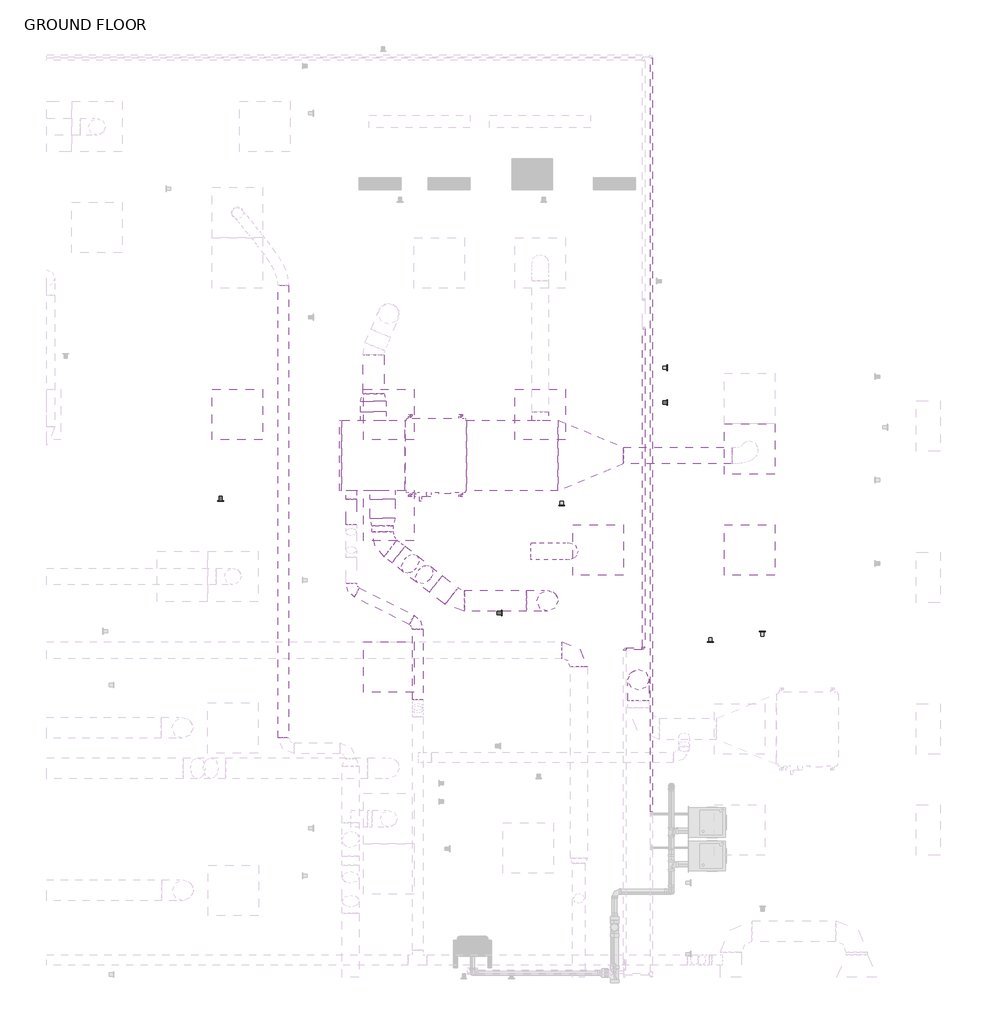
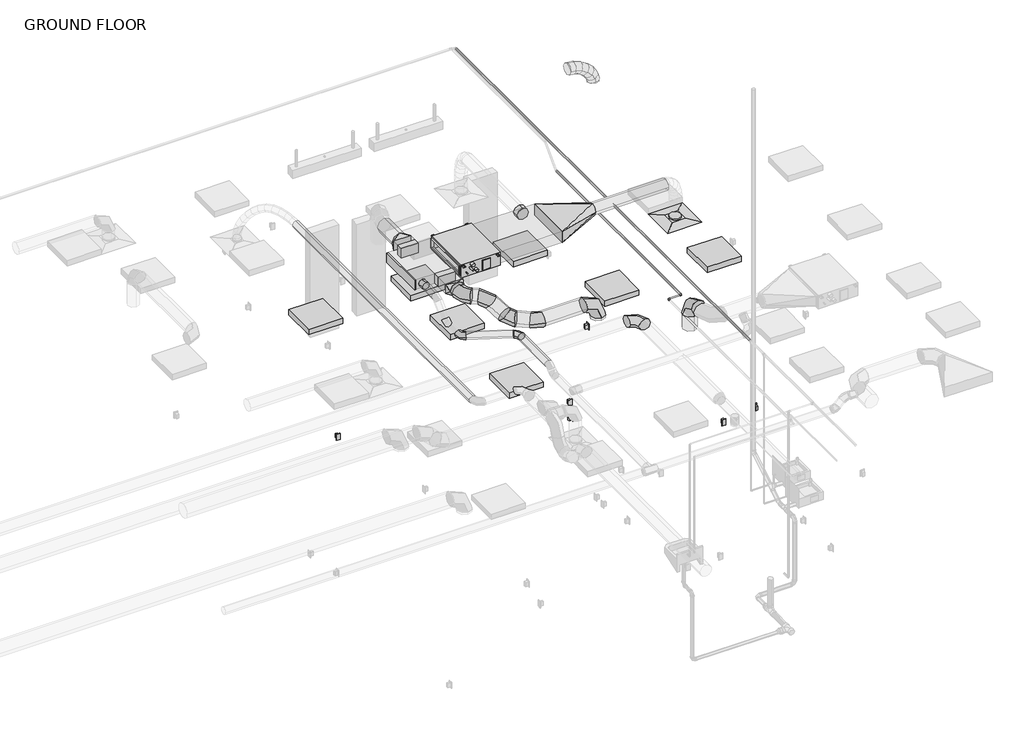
# One storey, part 18 of 20: 18 duct segments, 17 duct fittings, 7 light fixtures, 6 proxies, 3 pipe segments, 2 pipe fittings, 2 switching devices, 1 air terminal.
"""IFC4 building model written with IfcOpenShell, lengths in millimetres."""

from ifc_helpers import new_model, si_unit, point, frame, frame_2d, origin, place, context, project, spatial, polyline, circle_curve, ellipse_curve, trimmed, segment, composite_curve, outline, extrude, transform, mapped, element, save
from ifc_brep_helpers import plane_surface, cylinder_surface, advanced_brep
from components import air_terminal_e9020785, mechanical_equipment_7e022f85, duplex_receptacle_countertop_10251bba, rectangular_endcap_standard_66f4b2b8, rectangular_takeoff_standard_a8f316fd, rectangular_to_round_transition_angle_45_degree_0bd342e9, rectangular_to_round_transition_angle_45_degree_09297cf0, round_elbow_1_d_f2406e55, round_elbow_1_d_feab72b3, round_elbow_1_d_a253342a, round_elbow_1_d_6fec3262, round_elbow_1_d_ea3dccb8, round_elbow_1_d_21bb6db6, round_takeoff_standard_1127d77f, round_takeoff_standard_7fe2b2d5, troffer_corner_insert_2x2_3lamp_e67c7f8f, elbow_generic_standard_c06ac706

model = new_model("IFC4")

# Units and contexts
model_context = context("Model", 3, world=origin())
ifc_project = project(units=[si_unit("LENGTHUNIT", "METRE", prefix="MILLI")], contexts=[model_context])

# Site, building, storey
site = spatial("IfcSite", under=ifc_project)
building = spatial("IfcBuilding", under=site)
storey = spatial("IfcBuildingStorey", under=building, Name="GROUND FLOOR", Elevation=30480.0)

# Air terminal
placement = place(None, origin())
air_terminal_shape = air_terminal_e9020785(model_context)
element("IfcAirTerminal", 1, ObjectType="Supply Diffuser - Rectangular Face Round Neck - Hosted : 24\"x24\" Face 8\" Neck - Hosted", at=placement, inside=storey, context=model_context, shape_type="MappedRepresentation", body=[
    mapped(air_terminal_shape, transform((14567.8545393, 2918.8195005, 33223.2), x_axis=(0.0, -1.0, 0.0), y_axis=(-1.0, 0.0, 0.0), z_axis=(0.0, 0.0, -1.0))),
])

# Proxies
mechanical_equipment_shape = mechanical_equipment_7e022f85(model_context)
element("IfcBuildingElementProxy", 2, Name="PEFY-P-NMAU-E_Medium_Static_Ducted : PEFY-P18NMAU-E", ObjectType="PEFY-P-NMAU-E_Medium_Static_Ducted : PEFY-P18NMAU-E", at=placement, inside=storey, context=model_context, shape_type="MappedRepresentation", body=[
    mapped(mechanical_equipment_shape, transform((10724.1343566, 2831.884404, 33832.8), x_axis=(0.0, -1.0, 0.0), y_axis=(1.0, 0.0, 0.0), z_axis=(0.0, 0.0, 1.0))),
])
duplex_receptacle_countertop_shape = duplex_receptacle_countertop_10251bba(model_context)
element("IfcBuildingElementProxy", 3, Name="Duplex Receptacle : Countertop", ObjectType="Duplex Receptacle : Countertop", at=placement, inside=storey, context=model_context, shape_type="MappedRepresentation", body=[
    mapped(duplex_receptacle_countertop_shape, transform((11573.8295393, 941.1895793, 31699.2), x_axis=(0.0, 1.0, 0.0), y_axis=(0.0, 0.0, 1.0), z_axis=(1.0, 0.0, 0.0))),
])
element("IfcBuildingElementProxy", 4, Name="Duplex Receptacle : Standard", ObjectType="Duplex Receptacle : Standard", at=placement, inside=storey, context=model_context, shape_type="MappedRepresentation", body=[
    mapped(duplex_receptacle_countertop_shape, transform((12301.5341357, 2239.3695005, 30937.2), x_axis=(1.0, 0.0, 0.0), y_axis=(0.0, 0.0, 1.0), z_axis=(0.0, -1.0, 0.0))),
])
element("IfcBuildingElementProxy", 5, Name="Duplex Receptacle : Standard", ObjectType="Duplex Receptacle : Standard", at=placement, inside=storey, context=model_context, shape_type="MappedRepresentation", body=[
    mapped(duplex_receptacle_countertop_shape, transform((14723.7149264, 715.3695005, 30937.2), x_axis=(-1.0, 0.0, 0.0), y_axis=(0.0, 0.0, 1.0), z_axis=(0.0, 1.0, 0.0))),
])
element("IfcBuildingElementProxy", 6, Name="Duplex Receptacle : Standard", ObjectType="Duplex Receptacle : Standard", at=placement, inside=storey, context=model_context, shape_type="MappedRepresentation", body=[
    mapped(duplex_receptacle_countertop_shape, transform((13574.0795393, 3902.2763697, 30937.2), x_axis=(0.0, 1.0, 0.0), y_axis=(0.0, 0.0, 1.0), z_axis=(1.0, 0.0, 0.0))),
])
element("IfcBuildingElementProxy", 7, Name="Duplex Receptacle : Standard", ObjectType="Duplex Receptacle : Standard", at=placement, inside=storey, context=model_context, shape_type="MappedRepresentation", body=[
    mapped(duplex_receptacle_countertop_shape, transform((14097.4622755, 591.5445005, 30937.2), x_axis=(1.0, 0.0, 0.0), y_axis=(0.0, 0.0, 1.0), z_axis=(0.0, -1.0, 0.0))),
])

# Duct fittings
rectangular_endcap_standard_shape = rectangular_endcap_standard_66f4b2b8(model_context)
element("IfcDuctFitting", 8, ObjectType="Rectangular Endcap : Standard", at=placement, inside=storey, context=model_context, shape_type="MappedRepresentation", body=[
    mapped(rectangular_endcap_standard_shape, transform((9644.6343566, 2841.896647, 33992.34375), x_axis=(-1.0, 0.0, 0.0), y_axis=(0.0, -1.0, 0.0), z_axis=(0.0, 0.0, 1.0))),
])
rectangular_takeoff_standard_shape = rectangular_takeoff_standard_a8f316fd(model_context)
element("IfcDuctFitting", 9, ObjectType="Rectangular Takeoff : Standard", at=placement, inside=storey, context=model_context, shape_type="MappedRepresentation", body=[
    mapped(rectangular_takeoff_standard_shape, transform((10137.7468891, 2414.065397, 33992.34375), x_axis=(0.0, -1.0, 0.0), y_axis=(-1.0, 0.0, 0.0), z_axis=(0.0, 0.0, -1.0))),
])
element("IfcDuctFitting", 10, ObjectType="Rectangular Takeoff : Standard", at=placement, inside=storey, context=model_context, shape_type="MappedRepresentation", body=[
    mapped(rectangular_takeoff_standard_shape, transform((10025.6343566, 3269.727897, 33992.34375), x_axis=(0.0, 1.0, 0.0), y_axis=(1.0, 0.0, 0.0), z_axis=(0.0, 0.0, -1.0))),
])
rectangular_to_round_transition_angle_45_degree_shape = rectangular_to_round_transition_angle_45_degree_0bd342e9(model_context)
element("IfcDuctFitting", 11, ObjectType="Rectangular to Round Transition - Angle : 45 Degree", at=placement, inside=storey, context=model_context, shape_type="MappedRepresentation", body=[
    mapped(rectangular_to_round_transition_angle_45_degree_shape, transform((10137.7468891, 2083.865397, 33992.34375), x_axis=(0.0, -1.0, 0.0), y_axis=(1.0, 0.0, 0.0), z_axis=(0.0, 0.0, 1.0))),
])
element("IfcDuctFitting", 12, ObjectType="Rectangular to Round Transition - Angle : 45 Degree", at=placement, inside=storey, context=model_context, shape_type="MappedRepresentation", body=[
    mapped(rectangular_to_round_transition_angle_45_degree_shape, transform((10025.6343566, 3498.327897, 33992.34375), x_axis=(0.0, 1.0, 0.0), y_axis=(-1.0, 0.0, 0.0), z_axis=(0.0, 0.0, 1.0))),
])
rectangular_to_round_transition_angle_45_degree_2_shape = rectangular_to_round_transition_angle_45_degree_09297cf0(model_context)
element("IfcDuctFitting", 13, ObjectType="Rectangular to Round Transition - Angle : 45 Degree", at=placement, inside=storey, context=model_context, shape_type="MappedRepresentation", body=[
    mapped(rectangular_to_round_transition_angle_45_degree_2_shape, transform((12257.9936831, 2841.896647, 33978.85), x_axis=(1.0, 0.0, 0.0), y_axis=(0.0, 1.0, 0.0), z_axis=(0.0, 0.0, 1.0))),
])
round_elbow_1_d_shape = round_elbow_1_d_f2406e55(model_context)
element("IfcDuctFitting", 14, ObjectType="Round Elbow : 1 D", at=placement, inside=storey, context=model_context, shape_type="MappedRepresentation", body=[
    mapped(round_elbow_1_d_shape, transform((11037.2545393, 1090.0195005, 33629.6), x_axis=(0.7856705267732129, -0.6186451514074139, 0.0), y_axis=(0.6186451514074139, 0.7856705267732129, 0.0), z_axis=(0.0, 0.0, 1.0))),
])
round_elbow_1_d_2_shape = round_elbow_1_d_feab72b3(model_context)
element("IfcDuctFitting", 15, ObjectType="Round Elbow : 1 D", at=placement, inside=storey, context=model_context, shape_type="MappedRepresentation", body=[
    mapped(round_elbow_1_d_2_shape, transform((10137.7468891, 1798.3011879, 33992.34375), x_axis=(0.0, -1.0, 0.0), y_axis=(1.0, 0.0, 0.0), z_axis=(0.0, 0.0, 1.0))),
])
round_elbow_1_d_3_shape = round_elbow_1_d_a253342a(model_context)
element("IfcDuctFitting", 16, ObjectType="Round Elbow : 1 D", at=placement, inside=storey, context=model_context, shape_type="MappedRepresentation", body=[
    mapped(round_elbow_1_d_3_shape, transform((12507.2795393, 493.3414929, 33528.0), x_axis=(0.0, 1.0, 0.0), y_axis=(-1.0, 0.0, 0.0), z_axis=(0.0, 0.0, 1.0))),
])
round_elbow_1_d_4_shape = round_elbow_1_d_6fec3262(model_context)
element("IfcDuctFitting", 17, ObjectType="Round Elbow : 1 D", at=placement, inside=storey, context=model_context, shape_type="MappedRepresentation", body=[
    mapped(round_elbow_1_d_4_shape, transform((12129.4545393, 1090.0195005, 33629.6), x_axis=(0.0, 0.0, 1.0), y_axis=(-1.0, 0.0, 0.0), z_axis=(0.0, -1.0, 0.0))),
])
element("IfcDuctFitting", 18, ObjectType="Round Elbow : 1 D", at=placement, inside=storey, context=model_context, shape_type="MappedRepresentation", body=[
    mapped(round_elbow_1_d_4_shape, transform((13229.5920393, 134.3445005, 33846.29375), x_axis=(0.0, 0.0, 1.0), y_axis=(0.0, -1.0, 0.0), z_axis=(1.0, 0.0, 0.0))),
])
round_elbow_1_d_5_shape = round_elbow_1_d_ea3dccb8(model_context)
element("IfcDuctFitting", 19, ObjectType="Round Elbow : 1 D", at=placement, inside=storey, context=model_context, shape_type="MappedRepresentation", body=[
    mapped(round_elbow_1_d_5_shape, transform((10413.0302243, 1581.5402242, 33992.34375), x_axis=(0.7856705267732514, -0.6186451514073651, 0.0), y_axis=(0.0, 0.0, -1.0), z_axis=(0.6186451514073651, 0.7856705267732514, 0.0))),
])
element("IfcDuctFitting", 20, ObjectType="Round Elbow : 1 D", at=placement, inside=storey, context=model_context, shape_type="MappedRepresentation", body=[
    mapped(round_elbow_1_d_5_shape, transform((10698.0272974, 1357.130562, 33629.6), x_axis=(0.5555529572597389, -0.4374481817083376, -0.7071067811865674), y_axis=(0.5555529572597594, -0.4374481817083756, 0.7071067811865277), z_axis=(-0.618645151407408, -0.7856705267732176, 0.0))),
])
round_elbow_1_d_6_shape = round_elbow_1_d_21bb6db6(model_context)
element("IfcDuctFitting", 21, ObjectType="Round Elbow : 1 D", at=placement, inside=storey, context=model_context, shape_type="MappedRepresentation", body=[
    mapped(round_elbow_1_d_6_shape, transform((10560.5577502, 823.3195005, 33705.8), x_axis=(0.0, 1.0, 0.0), y_axis=(-1.0, 0.0, 0.0), z_axis=(0.0, 0.0, 1.0))),
])
element("IfcDuctFitting", 22, ObjectType="Round Elbow : 1 D", at=placement, inside=storey, context=model_context, shape_type="MappedRepresentation", body=[
    mapped(round_elbow_1_d_6_shape, transform((9756.9865694, 1223.9608568, 33705.8), x_axis=(0.0, -1.0, 0.0), y_axis=(0.9999999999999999, 0.0, 0.0), z_axis=(0.0, 0.0, 0.9999999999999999))),
])
round_takeoff_standard_shape = round_takeoff_standard_1127d77f(model_context)
element("IfcDuctFitting", 23, ObjectType="Round Takeoff : Standard", at=placement, inside=storey, context=model_context, shape_type="MappedRepresentation", body=[
    mapped(round_takeoff_standard_shape, transform((12040.5545393, 3269.727897, 33978.85), x_axis=(0.0, 1.0, 0.0), y_axis=(1.0, 0.0, 0.0), z_axis=(0.0, 0.0, -1.0))),
])
round_takeoff_standard_2_shape = round_takeoff_standard_7fe2b2d5(model_context)
element("IfcDuctFitting", 24, ObjectType="Round Takeoff : Standard", at=placement, inside=storey, context=model_context, shape_type="MappedRepresentation", body=[
    mapped(round_takeoff_standard_2_shape, transform((9756.9865694, 2414.065397, 33992.34375), x_axis=(0.0, -1.0, 0.0), y_axis=(-1.0, 0.0, 0.0), z_axis=(0.0, 0.0, -1.0))),
])

# Duct segments
element("IfcDuctSegment", 25, ObjectType="Flex - Round", at=placement, inside=storey, context=model_context, shape_type="AdvancedBrep", body=[
    advanced_brep(
    [(11929.4295393, 1788.5195005, 37712.65), (11929.4295393, 1686.9195005, 37611.05), (11929.4295393, 1585.3195005, 37712.65), (11929.4295393, 1686.9195005, 37814.25), (11942.8770973, 1788.5195005, 37712.65), (11935.1214914, 1686.9195005, 37611.05), (11942.8770973, 1585.3195005, 37712.65), (11950.6327032, 1686.9195005, 37814.25), (12392.9795393, 1788.5195005, 37341.175), (12494.5795393, 1686.9195005, 37341.175), (12392.9795393, 1585.3195005, 37341.175), (12291.3795393, 1686.9195005, 37341.175), (12032.5201106, 1788.5195005, 37698.8840402), (12007.0675218, 1686.9195005, 37600.0016636), (12032.5201106, 1585.3195005, 37698.8840402), (12057.9726995, 1686.9195005, 37797.7664167), (12137.6136928, 1788.5195005, 37660.3439286), (12093.4253019, 1686.9195005, 37568.3323798), (12137.6136928, 1585.3195005, 37660.3439286), (12181.8020838, 1686.9195005, 37752.3554774), (12235.4583563, 1788.5195005, 37601.166317), (12173.9191675, 1686.9195005, 37519.6487364), (12235.4583563, 1585.3195005, 37601.166317), (12296.9975452, 1686.9195005, 37682.6838977), (12316.8021716, 1788.5195005, 37525.4878572), (12237.9377792, 1686.9195005, 37460.0888311), (12316.8021716, 1585.3195005, 37525.4878572), (12395.666564, 1686.9195005, 37590.8868834), (12372.3932091, 1788.5195005, 37437.445201), (12278.4147005, 1686.9195005, 37395.9832517), (12372.3932091, 1585.3195005, 37437.445201), (12466.3717177, 1686.9195005, 37478.9071503), (12392.9795393, 1788.5195005, 37362.4207258), (12291.3795393, 1686.9195005, 37348.7344116), (12392.9795393, 1585.3195005, 37362.4207258), (12494.5795393, 1686.9195005, 37376.10704)],
    [
        (0, 1, circle_curve(frame((11929.4295393, 1686.9195005, 37712.65), z_axis=(-1.0, 0.0, 0.0), x_axis=(0.0, 1.0, 0.0)), 101.6)),
        (1, 2, circle_curve(frame((11929.4295393, 1686.9195005, 37712.65), z_axis=(-1.0, 0.0, 0.0), x_axis=(0.0, 1.0, 0.0)), 101.6)),
        (2, 3, circle_curve(frame((11929.4295393, 1686.9195005, 37712.65), z_axis=(-1.0, 0.0, 0.0), x_axis=(0.0, 1.0, 0.0)), 101.6)),
        (3, 0, circle_curve(frame((11929.4295393, 1686.9195005, 37712.65), z_axis=(-1.0, 0.0, 0.0), x_axis=(0.0, 1.0, 0.0)), 101.6)),
        (0, 4),
        (4, 5, ellipse_curve(frame((11942.8770973, 1686.9195005, 37712.65), z_axis=(-0.9970991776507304, 0.0, 0.07611327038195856), x_axis=(-0.07611327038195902, 0.0, -0.9970991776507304)), 101.895581, 101.6)),
        (5, 1),
        (5, 6, ellipse_curve(frame((11942.8770973, 1686.9195005, 37712.65), z_axis=(-0.9970991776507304, 0.0, 0.07611327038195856), x_axis=(-0.07611327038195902, 0.0, -0.9970991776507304)), 101.895581, 101.6)),
        (6, 2),
        (6, 7, ellipse_curve(frame((11942.8770973, 1686.9195005, 37712.65), z_axis=(-0.9970991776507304, 0.0, 0.07611327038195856), x_axis=(-0.07611327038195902, 0.0, -0.9970991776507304)), 101.895581, 101.6)),
        (7, 3),
        (7, 4, ellipse_curve(frame((11942.8770973, 1686.9195005, 37712.65), z_axis=(-0.9970991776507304, 0.0, 0.07611327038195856), x_axis=(-0.07611327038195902, 0.0, -0.9970991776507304)), 101.895581, 101.6)),
        (8, 9, circle_curve(frame((12392.9795393, 1686.9195005, 37341.175), z_axis=(0.0, 0.0, -1.0), x_axis=(0.0, 1.0, 0.0)), 101.6)),
        (9, 10, circle_curve(frame((12392.9795393, 1686.9195005, 37341.175), z_axis=(0.0, 0.0, -1.0), x_axis=(0.0, 1.0, 0.0)), 101.6)),
        (10, 11, circle_curve(frame((12392.9795393, 1686.9195005, 37341.175), z_axis=(0.0, 0.0, -1.0), x_axis=(0.0, 1.0, 0.0)), 101.6)),
        (11, 8, circle_curve(frame((12392.9795393, 1686.9195005, 37341.175), z_axis=(0.0, 0.0, -1.0), x_axis=(0.0, 1.0, 0.0)), 101.6)),
        (4, 12),
        (12, 13, ellipse_curve(frame((12032.5201106, 1686.9195005, 37698.8840402), z_axis=(-0.9684322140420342, 0.0, 0.24927704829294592), x_axis=(-0.2492770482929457, 0.0, -0.9684322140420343)), 102.1056251, 101.6)),
        (13, 5),
        (13, 14, ellipse_curve(frame((12032.5201106, 1686.9195005, 37698.8840402), z_axis=(-0.9684322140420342, 0.0, 0.24927704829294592), x_axis=(-0.2492770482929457, 0.0, -0.9684322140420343)), 102.1056251, 101.6)),
        (14, 6),
        (14, 15, ellipse_curve(frame((12032.5201106, 1686.9195005, 37698.8840402), z_axis=(-0.9684322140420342, 0.0, 0.24927704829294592), x_axis=(-0.2492770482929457, 0.0, -0.9684322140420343)), 102.1056251, 101.6)),
        (15, 7),
        (15, 12, ellipse_curve(frame((12032.5201106, 1686.9195005, 37698.8840402), z_axis=(-0.9684322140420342, 0.0, 0.24927704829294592), x_axis=(-0.2492770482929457, 0.0, -0.9684322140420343)), 102.1056251, 101.6)),
        (12, 16),
        (16, 17, ellipse_curve(frame((12137.6136928, 1686.9195005, 37660.3439286), z_axis=(-0.9014357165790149, 0.0, 0.4329129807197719), x_axis=(-0.43291298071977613, 0.0, -0.9014357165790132)), 102.0722244, 101.6)),
        (17, 13),
        (17, 18, ellipse_curve(frame((12137.6136928, 1686.9195005, 37660.3439286), z_axis=(-0.9014357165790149, 0.0, 0.4329129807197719), x_axis=(-0.43291298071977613, 0.0, -0.9014357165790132)), 102.0722244, 101.6)),
        (18, 14),
        (18, 19, ellipse_curve(frame((12137.6136928, 1686.9195005, 37660.3439286), z_axis=(-0.9014357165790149, 0.0, 0.4329129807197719), x_axis=(-0.43291298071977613, 0.0, -0.9014357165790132)), 102.0722244, 101.6)),
        (19, 15),
        (19, 16, ellipse_curve(frame((12137.6136928, 1686.9195005, 37660.3439286), z_axis=(-0.9014357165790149, 0.0, 0.4329129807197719), x_axis=(-0.43291298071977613, 0.0, -0.9014357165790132)), 102.0722244, 101.6)),
        (16, 20),
        (20, 21, ellipse_curve(frame((12235.4583563, 1686.9195005, 37601.166317), z_axis=(-0.7981115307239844, 0.0, 0.6025097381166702), x_axis=(-0.6025097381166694, 0.0, -0.798111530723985)), 102.1380816, 101.6)),
        (21, 17),
        (21, 22, ellipse_curve(frame((12235.4583563, 1686.9195005, 37601.166317), z_axis=(-0.7981115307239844, 0.0, 0.6025097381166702), x_axis=(-0.6025097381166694, 0.0, -0.798111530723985)), 102.1380816, 101.6)),
        (22, 18),
        (22, 23, ellipse_curve(frame((12235.4583563, 1686.9195005, 37601.166317), z_axis=(-0.7981115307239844, 0.0, 0.6025097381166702), x_axis=(-0.6025097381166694, 0.0, -0.798111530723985)), 102.1380816, 101.6)),
        (23, 19),
        (23, 20, ellipse_curve(frame((12235.4583563, 1686.9195005, 37601.166317), z_axis=(-0.7981115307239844, 0.0, 0.6025097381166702), x_axis=(-0.6025097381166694, 0.0, -0.798111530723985)), 102.1380816, 101.6)),
        (20, 24),
        (24, 25, ellipse_curve(frame((12316.8021716, 1686.9195005, 37525.4878572), z_axis=(-0.638331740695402, 0.0, 0.7697613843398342), x_axis=(-0.769761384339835, 0.0, -0.6383317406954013)), 102.4530381, 101.6)),
        (25, 21),
        (25, 26, ellipse_curve(frame((12316.8021716, 1686.9195005, 37525.4878572), z_axis=(-0.638331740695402, 0.0, 0.7697613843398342), x_axis=(-0.769761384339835, 0.0, -0.6383317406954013)), 102.4530381, 101.6)),
        (26, 22),
        (26, 27, ellipse_curve(frame((12316.8021716, 1686.9195005, 37525.4878572), z_axis=(-0.638331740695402, 0.0, 0.7697613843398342), x_axis=(-0.769761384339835, 0.0, -0.6383317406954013)), 102.4530381, 101.6)),
        (27, 23),
        (27, 24, ellipse_curve(frame((12316.8021716, 1686.9195005, 37525.4878572), z_axis=(-0.638331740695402, 0.0, 0.7697613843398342), x_axis=(-0.769761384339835, 0.0, -0.6383317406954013)), 102.4530381, 101.6)),
        (24, 28),
        (28, 29, ellipse_curve(frame((12372.3932091, 1686.9195005, 37437.445201), z_axis=(-0.40364707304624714, 0.0, 0.9149147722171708), x_axis=(-0.9149147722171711, 0.0, -0.40364707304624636)), 102.7183202, 101.6)),
        (29, 25),
        (29, 30, ellipse_curve(frame((12372.3932091, 1686.9195005, 37437.445201), z_axis=(-0.40364707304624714, 0.0, 0.9149147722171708), x_axis=(-0.9149147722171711, 0.0, -0.40364707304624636)), 102.7183202, 101.6)),
        (30, 26),
        (30, 31, ellipse_curve(frame((12372.3932091, 1686.9195005, 37437.445201), z_axis=(-0.40364707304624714, 0.0, 0.9149147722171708), x_axis=(-0.9149147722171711, 0.0, -0.40364707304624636)), 102.7183202, 101.6)),
        (31, 27),
        (31, 28, ellipse_curve(frame((12372.3932091, 1686.9195005, 37437.445201), z_axis=(-0.40364707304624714, 0.0, 0.9149147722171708), x_axis=(-0.9149147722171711, 0.0, -0.40364707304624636)), 102.7183202, 101.6)),
        (28, 32),
        (32, 33, ellipse_curve(frame((12392.9795393, 1686.9195005, 37362.4207258), z_axis=(-0.1335019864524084, 0.0, 0.9910485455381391), x_axis=(-0.9910485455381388, 0.0, -0.13350198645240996)), 102.5176824, 101.6)),
        (33, 29),
        (33, 34, ellipse_curve(frame((12392.9795393, 1686.9195005, 37362.4207258), z_axis=(-0.1335019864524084, 0.0, 0.9910485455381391), x_axis=(-0.9910485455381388, 0.0, -0.13350198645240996)), 102.5176824, 101.6)),
        (34, 30),
        (34, 35, ellipse_curve(frame((12392.9795393, 1686.9195005, 37362.4207258), z_axis=(-0.1335019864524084, 0.0, 0.9910485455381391), x_axis=(-0.9910485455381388, 0.0, -0.13350198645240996)), 102.5176824, 101.6)),
        (35, 31),
        (35, 32, ellipse_curve(frame((12392.9795393, 1686.9195005, 37362.4207258), z_axis=(-0.1335019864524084, 0.0, 0.9910485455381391), x_axis=(-0.9910485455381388, 0.0, -0.13350198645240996)), 102.5176824, 101.6)),
        (32, 8),
        (11, 33),
        (10, 34),
        (9, 35),
    ],
    [
        plane_surface(frame((11929.4295393, 1686.9195005, 37611.05), z_axis=(-1.0, 0.0, 0.0), x_axis=(0.0, 1.0, 0.0))),
        cylinder_surface(frame((11929.4295393, 1686.9195005, 37712.65), z_axis=(-1.0, 0.0, 0.0), x_axis=(0.0, 1.0, 0.0)), 101.6),
        plane_surface(frame((12392.9795393, 1585.3195005, 37341.175), z_axis=(0.0, 0.0, -1.0), x_axis=(-1.0, 0.0, 0.0))),
        cylinder_surface(frame((11942.8770973, 1686.9195005, 37712.65), z_axis=(-0.9884135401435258, 0.0, 0.15178495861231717), x_axis=(0.0, 1.0, 0.0)), 101.6),
        cylinder_surface(frame((12032.5201106, 1686.9195005, 37698.8840402), z_axis=(-0.9388595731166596, 0.0, 0.3443003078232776), x_axis=(0.0, 1.0, 0.0)), 101.6),
        cylinder_surface(frame((12137.6136928, 1686.9195005, 37660.3439286), z_axis=(-0.8556710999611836, 0.0, 0.5175200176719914), x_axis=(0.0, 1.0, 0.0)), 101.6),
        cylinder_surface(frame((12235.4583563, 1686.9195005, 37601.166317), z_axis=(-0.7321427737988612, 0.0, 0.6811512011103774), x_axis=(0.0, 1.0, 0.0)), 101.6),
        cylinder_surface(frame((12316.8021716, 1686.9195005, 37525.4878572), z_axis=(-0.5338910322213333, 0.0, 0.8455532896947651), x_axis=(0.0, 1.0, 0.0)), 101.6),
        cylinder_surface(frame((12372.3932091, 1686.9195005, 37437.445201), z_axis=(-0.2646138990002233, 0.0, 0.9643544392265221), x_axis=(0.0, 1.0, 0.0)), 101.6),
        cylinder_surface(frame((12392.9795393, 1686.9195005, 37362.4207258), z_axis=(0.0, 0.0, 1.0), x_axis=(0.0, 1.0, 0.0)), 101.6),
    ],
    [
        (0, [[1, 2, 3, 4]]),
        (1, [[-1, 5, 6, 7]]),
        (1, [[-2, -7, 8, 9]]),
        (1, [[-3, -9, 10, 11]]),
        (1, [[-4, -11, 12, -5]]),
        (2, [[13, 14, 15, 16]]),
        (3, [[-6, 17, 18, 19]]),
        (3, [[-8, -19, 20, 21]]),
        (3, [[-10, -21, 22, 23]]),
        (3, [[-12, -23, 24, -17]]),
        (4, [[-18, 25, 26, 27]]),
        (4, [[-20, -27, 28, 29]]),
        (4, [[-22, -29, 30, 31]]),
        (4, [[-24, -31, 32, -25]]),
        (5, [[-26, 33, 34, 35]]),
        (5, [[-28, -35, 36, 37]]),
        (5, [[-30, -37, 38, 39]]),
        (5, [[-32, -39, 40, -33]]),
        (6, [[-34, 41, 42, 43]]),
        (6, [[-36, -43, 44, 45]]),
        (6, [[-38, -45, 46, 47]]),
        (6, [[-40, -47, 48, -41]]),
        (7, [[-42, 49, 50, 51]]),
        (7, [[-44, -51, 52, 53]]),
        (7, [[-46, -53, 54, 55]]),
        (7, [[-48, -55, 56, -49]]),
        (8, [[-50, 57, 58, 59]]),
        (8, [[-52, -59, 60, 61]]),
        (8, [[-54, -61, 62, 63]]),
        (8, [[-56, -63, 64, -57]]),
        (9, [[-58, 65, -16, 66]]),
        (9, [[-60, -66, -15, 67]]),
        (9, [[-62, -67, -14, 68]]),
        (9, [[-64, -68, -13, -65]]),
    ],
),
])
element("IfcDuctSegment", 26, ObjectType="Mitered Elbows / Taps", at=placement, inside=storey, context=model_context, shape_type="SweptSolid", body=[
    extrude(outline(polyline([(9985.3468891, 2312.465397), (10290.1468891, 2312.465397), (10290.1468891, 2083.865397), (9985.3468891, 2083.865397), (9985.3468891, 2312.465397)])), frame((0.0, 0.0, 33903.44375), z_axis=(0.0, 0.0, 1.0), x_axis=(1.0, 0.0, 0.0)), (0.0, 0.0, 1.0), 177.8),
])
element("IfcDuctSegment", 27, ObjectType="Mitered Elbows / Taps", at=placement, inside=storey, context=model_context, shape_type="SweptSolid", body=[
    extrude(outline(polyline([(10178.0343566, 3371.327897), (9873.2343566, 3371.327897), (9873.2343566, 3498.327897), (10178.0343566, 3498.327897), (10178.0343566, 3371.327897)])), frame((0.0, 0.0, 33903.44375), z_axis=(0.0, 0.0, 1.0), x_axis=(1.0, 0.0, 0.0)), (0.0, 0.0, 1.0), 177.8),
])
element("IfcDuctSegment", 28, ObjectType="Mitered Elbows / Taps", at=placement, inside=storey, context=model_context, shape_type="SweptSolid", body=[
    extrude(outline(polyline([(11152.7593566, 2414.065397), (11152.7593566, 3269.727897), (12257.9936831, 3269.727897), (12257.9936831, 2414.065397), (11152.7593566, 2414.065397)])), frame((0.0, 0.0, 33875.6625), z_axis=(0.0, 0.0, 1.0), x_axis=(1.0, 0.0, 0.0)), (0.0, 0.0, 1.0), 206.375),
])
element("IfcDuctSegment", 29, ObjectType="Mitered Elbows / Tees", at=placement, inside=storey, context=model_context, shape_type="SweptSolid", body=[
    extrude(outline(polyline([(10406.6343566, 3269.727897), (10406.6343566, 2414.065397), (9644.6343566, 2414.065397), (9644.6343566, 3269.727897), (10406.6343566, 3269.727897)])), frame((0.0, 0.0, 33902.65), z_axis=(0.0, 0.0, 1.0), x_axis=(1.0, 0.0, 0.0)), (0.0, 0.0, 1.0), 179.3875),
])
element("IfcDuctSegment", 30, ObjectType="Taps / Short Radius", at=placement, inside=storey, context=model_context, shape_type="SweptSolid", body=[
    extrude(outline(composite_curve([segment(trimmed(circle_curve(frame_2d((33877.25, 8938.5795393)), 63.5), [point((33877.25, 9002.0795393))], [point((33940.75, 8938.5795393))], False, "CARTESIAN"), True, "CONTINUOUS"), segment(trimmed(circle_curve(frame_2d((33877.25, 8938.5795393)), 63.5), [point((33940.75, 8938.5795393))], [point((33877.25, 8875.0795393))], False, "CARTESIAN"), True, "CONTINUOUS"), segment(trimmed(circle_curve(frame_2d((33877.25, 8938.5795393)), 63.5), [point((33877.25, 8875.0795393))], [point((33813.75, 8938.5795393))], False, "CARTESIAN"), True, "CONTINUOUS"), segment(trimmed(circle_curve(frame_2d((33877.25, 8938.5795393)), 63.5), [point((33813.75, 8938.5795393))], [point((33877.25, 9002.0795393))], False, "CARTESIAN"), True, "CONTINUOUS")], self_intersect=False)), frame((0.0, -564.6850038, 0.0), z_axis=(0.0, 1.0, 0.0), x_axis=(0.0, 0.0, 1.0)), (0.0, 0.0, 1.0), 5461.0),
])
element("IfcDuctSegment", 31, ObjectType="Taps / Short Radius", at=placement, inside=storey, context=model_context, shape_type="SweptSolid", body=[
    extrude(outline(composite_curve([segment(trimmed(circle_curve(frame_2d((33992.34375, 9756.9865694)), 63.5), [point((33992.34375, 9693.4865694))], [point((33928.84375, 9756.9865694))], False, "CARTESIAN"), True, "CONTINUOUS"), segment(trimmed(circle_curve(frame_2d((33992.34375, 9756.9865694)), 63.5), [point((33928.84375, 9756.9865694))], [point((33992.34375, 9820.4865694))], False, "CARTESIAN"), True, "CONTINUOUS"), segment(trimmed(circle_curve(frame_2d((33992.34375, 9756.9865694)), 63.5), [point((33992.34375, 9820.4865694))], [point((34055.84375, 9756.9865694))], False, "CARTESIAN"), True, "CONTINUOUS"), segment(trimmed(circle_curve(frame_2d((33992.34375, 9756.9865694)), 63.5), [point((34055.84375, 9756.9865694))], [point((33992.34375, 9693.4865694))], False, "CARTESIAN"), True, "CONTINUOUS")], self_intersect=False)), frame((0.0, 2008.5809665, 0.0), z_axis=(0.0, 1.0, 0.0), x_axis=(0.0, 0.0, 1.0)), (0.0, 0.0, 1.0), 303.8844305),
])
element("IfcDuctSegment", 32, ObjectType="Taps / Short Radius", at=placement, inside=storey, context=model_context, shape_type="SweptSolid", body=[
    extrude(outline(composite_curve([segment(trimmed(circle_curve(frame_2d((33705.8, 10560.5577502)), 63.5), [point((33705.8, 10624.0577502))], [point((33769.3, 10560.5577502))], False, "CARTESIAN"), True, "CONTINUOUS"), segment(trimmed(circle_curve(frame_2d((33705.8, 10560.5577502)), 63.5), [point((33769.3, 10560.5577502))], [point((33705.8, 10497.0577502))], False, "CARTESIAN"), True, "CONTINUOUS"), segment(trimmed(circle_curve(frame_2d((33705.8, 10560.5577502)), 63.5), [point((33705.8, 10497.0577502))], [point((33642.3, 10560.5577502))], False, "CARTESIAN"), True, "CONTINUOUS"), segment(trimmed(circle_curve(frame_2d((33705.8, 10560.5577502)), 63.5), [point((33642.3, 10560.5577502))], [point((33705.8, 10624.0577502))], False, "CARTESIAN"), True, "CONTINUOUS")], self_intersect=False)), frame((0.0, -104.3657402, 0.0), z_axis=(0.0, 1.0, 0.0), x_axis=(0.0, 0.0, 1.0)), (0.0, 0.0, 1.0), 849.0948661),
])
element("IfcDuctSegment", 33, ObjectType="Taps / Short Radius", at=placement, inside=storey, context=model_context, shape_type="SweptSolid", body=[
    extrude(outline(composite_curve([segment(trimmed(circle_curve(frame_2d((0.0, 63.5)), 63.5), [point((63.4999999, 63.5))], [point((0.0, 0.0))], False, "CARTESIAN"), True, "CONTINUOUS"), segment(trimmed(circle_curve(frame_2d((0.0, 63.5)), 63.5), [point((0.0, 0.0))], [point((-63.5, 63.5))], False, "CARTESIAN"), True, "CONTINUOUS"), segment(trimmed(circle_curve(frame_2d((0.0, 63.5)), 63.5), [point((-63.5, 63.5))], [point((0.0, 127.0))], False, "CARTESIAN"), True, "CONTINUOUS"), segment(trimmed(circle_curve(frame_2d((0.0, 63.5)), 63.5), [point((0.0, 127.0))], [point((63.4999999, 63.5))], False, "CARTESIAN"), True, "CONTINUOUS")], self_intersect=False)), frame((10490.2243678, 858.3860415, 33769.3), z_axis=(-0.8949363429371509, 0.44619383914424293, 0.0), x_axis=(0.44619383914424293, 0.8949363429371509, 0.0)), (0.0, 0.0, 1.0), 740.7280095),
])
element("IfcDuctSegment", 34, ObjectType="Taps / Short Radius", at=placement, inside=storey, context=model_context, shape_type="SweptSolid", body=[
    extrude(outline(composite_curve([segment(trimmed(circle_curve(frame_2d((33992.34375, 10137.7468891)), 127.0), [point((33992.34375, 10010.7468891))], [point((33865.34375, 10137.7468891))], False, "CARTESIAN"), True, "CONTINUOUS"), segment(trimmed(circle_curve(frame_2d((33992.34375, 10137.7468891)), 127.0), [point((33865.34375, 10137.7468891))], [point((33992.34375, 10264.7468891))], False, "CARTESIAN"), True, "CONTINUOUS"), segment(trimmed(circle_curve(frame_2d((33992.34375, 10137.7468891)), 127.0), [point((33992.34375, 10264.7468891))], [point((34119.34375, 10137.7468891))], False, "CARTESIAN"), True, "CONTINUOUS"), segment(trimmed(circle_curve(frame_2d((33992.34375, 10137.7468891)), 127.0), [point((34119.34375, 10137.7468891))], [point((33992.34375, 10010.7468891))], False, "CARTESIAN"), True, "CONTINUOUS")], self_intersect=False)), frame((0.0, 1921.5896762, 0.0), z_axis=(0.0, 1.0, 0.0), x_axis=(0.0, 0.0, 1.0)), (0.0, 0.0, 1.0), 70.2941841),
])
element("IfcDuctSegment", 35, ObjectType="Taps / Short Radius", at=placement, inside=storey, context=model_context, shape_type="SweptSolid", body=[
    extrude(outline(composite_curve([segment(trimmed(circle_curve(frame_2d((33992.34375, 10025.6343566)), 127.0), [point((33992.34375, 10152.6343566))], [point((34119.34375, 10025.6343566))], False, "CARTESIAN"), True, "CONTINUOUS"), segment(trimmed(circle_curve(frame_2d((33992.34375, 10025.6343566)), 127.0), [point((34119.34375, 10025.6343566))], [point((33992.34375, 9898.6343566))], False, "CARTESIAN"), True, "CONTINUOUS"), segment(trimmed(circle_curve(frame_2d((33992.34375, 10025.6343566)), 127.0), [point((33992.34375, 9898.6343566))], [point((33865.34375, 10025.6343566))], False, "CARTESIAN"), True, "CONTINUOUS"), segment(trimmed(circle_curve(frame_2d((33992.34375, 10025.6343566)), 127.0), [point((33865.34375, 10025.6343566))], [point((33992.34375, 10152.6343566))], False, "CARTESIAN"), True, "CONTINUOUS")], self_intersect=False)), frame((0.0, 3590.3094337, 0.0), z_axis=(0.0, 1.0, 0.0), x_axis=(0.0, 0.0, 1.0)), (0.0, 0.0, 1.0), 466.7478413),
])
element("IfcDuctSegment", 36, ObjectType="Taps / Short Radius", at=placement, inside=storey, context=model_context, shape_type="SweptSolid", body=[
    extrude(outline(composite_curve([segment(trimmed(circle_curve(frame_2d((2841.896647, 33978.85)), 101.6), [point((2943.496647, 33978.85))], [point((2841.896647, 33877.25))], False, "CARTESIAN"), True, "CONTINUOUS"), segment(trimmed(circle_curve(frame_2d((2841.896647, 33978.85)), 101.6), [point((2841.896647, 33877.25))], [point((2740.296647, 33978.85))], False, "CARTESIAN"), True, "CONTINUOUS"), segment(trimmed(circle_curve(frame_2d((2841.896647, 33978.85)), 101.6), [point((2740.296647, 33978.85))], [point((2841.896647, 34080.45))], False, "CARTESIAN"), True, "CONTINUOUS"), segment(trimmed(circle_curve(frame_2d((2841.896647, 33978.85)), 101.6), [point((2841.896647, 34080.45))], [point((2943.496647, 33978.85))], False, "CARTESIAN"), True, "CONTINUOUS")], self_intersect=False)), frame((13045.5855914, 0.0, 0.0), z_axis=(1.0, 0.0, 0.0), x_axis=(0.0, 1.0, 0.0)), (0.0, 0.0, 1.0), 1309.5439479),
])
element("IfcDuctSegment", 37, ObjectType="Taps / Short Radius", at=placement, inside=storey, context=model_context, shape_type="SweptSolid", body=[
    extrude(outline(composite_curve([segment(trimmed(circle_curve(frame_2d((1090.0195005, 33629.6)), 127.0), [point((1217.0195005, 33629.6))], [point((1090.0195005, 33502.6))], False, "CARTESIAN"), True, "CONTINUOUS"), segment(trimmed(circle_curve(frame_2d((1090.0195005, 33629.6)), 127.0), [point((1090.0195005, 33502.6))], [point((963.0195005, 33629.6))], False, "CARTESIAN"), True, "CONTINUOUS"), segment(trimmed(circle_curve(frame_2d((1090.0195005, 33629.6)), 127.0), [point((963.0195005, 33629.6))], [point((1090.0195005, 33756.6))], False, "CARTESIAN"), True, "CONTINUOUS"), segment(trimmed(circle_curve(frame_2d((1090.0195005, 33629.6)), 127.0), [point((1090.0195005, 33756.6))], [point((1217.0195005, 33629.6))], False, "CARTESIAN"), True, "CONTINUOUS")], self_intersect=False)), frame((11125.252782, 0.0, 0.0), z_axis=(1.0, 0.0, 0.0), x_axis=(0.0, 1.0, 0.0)), (0.0, 0.0, 1.0), 750.2017573),
])
element("IfcDuctSegment", 38, ObjectType="Taps / Short Radius", at=placement, inside=storey, context=model_context, shape_type="SweptSolid", body=[
    extrude(outline(composite_curve([segment(trimmed(circle_curve(frame_2d((12129.4545393, 1090.0195005)), 127.0), [point((12129.4545393, 1217.0195005))], [point((12256.4545393, 1090.0195005))], False, "CARTESIAN"), True, "CONTINUOUS"), segment(trimmed(circle_curve(frame_2d((12129.4545393, 1090.0195005)), 127.0), [point((12256.4545393, 1090.0195005))], [point((12129.4545393, 963.0195005))], False, "CARTESIAN"), True, "CONTINUOUS"), segment(trimmed(circle_curve(frame_2d((12129.4545393, 1090.0195005)), 127.0), [point((12129.4545393, 963.0195005))], [point((12002.4545393, 1090.0195005))], False, "CARTESIAN"), True, "CONTINUOUS"), segment(trimmed(circle_curve(frame_2d((12129.4545393, 1090.0195005)), 127.0), [point((12002.4545393, 1090.0195005))], [point((12129.4545393, 1217.0195005))], False, "CARTESIAN"), True, "CONTINUOUS")], self_intersect=False)), frame((0.0, 0.0, 33324.8), z_axis=(0.0, 0.0, 1.0), x_axis=(1.0, 0.0, 0.0)), (0.0, 0.0, 1.0), 50.8),
])
element("IfcDuctSegment", 39, ObjectType="Taps / Short Radius", at=placement, inside=storey, context=model_context, shape_type="SweptSolid", body=[
    extrude(outline(composite_curve([segment(trimmed(circle_curve(frame_2d((0.0, -127.0)), 127.0), [point((-127.0, -127.0))], [point((0.0, 0.0))], False, "CARTESIAN"), True, "CONTINUOUS"), segment(trimmed(circle_curve(frame_2d((0.0, -127.0)), 127.0), [point((0.0, 0.0))], [point((127.0, -127.0))], False, "CARTESIAN"), True, "CONTINUOUS"), segment(trimmed(circle_curve(frame_2d((0.0, -127.0)), 127.0), [point((127.0, -127.0))], [point((0.0, -254.0))], False, "CARTESIAN"), True, "CONTINUOUS"), segment(trimmed(circle_curve(frame_2d((0.0, -127.0)), 127.0), [point((0.0, -254.0))], [point((-127.0, -127.0))], False, "CARTESIAN"), True, "CONTINUOUS")], self_intersect=False)), frame((10968.1169136, 1144.4591867, 33502.6), z_axis=(-0.7856705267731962, 0.6186451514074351, 0.0), x_axis=(0.6186451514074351, 0.7856705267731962, 0.0)), (0.0, 0.0, 1.0), 238.5593213),
])
element("IfcDuctSegment", 40, ObjectType="Taps / Short Radius", at=placement, inside=storey, context=model_context, shape_type="SweptSolid", body=[
    extrude(outline(composite_curve([segment(trimmed(circle_curve(frame_2d((0.0, -127.0)), 127.0), [point((-127.0, -127.0))], [point((0.0, 0.0))], False, "CARTESIAN"), True, "CONTINUOUS"), segment(trimmed(circle_curve(frame_2d((0.0, -127.0)), 127.0), [point((0.0, 0.0))], [point((127.0, -127.0))], False, "CARTESIAN"), True, "CONTINUOUS"), segment(trimmed(circle_curve(frame_2d((0.0, -127.0)), 127.0), [point((127.0, -127.0))], [point((0.0, -254.0))], False, "CARTESIAN"), True, "CONTINUOUS"), segment(trimmed(circle_curve(frame_2d((0.0, -127.0)), 127.0), [point((0.0, -254.0))], [point((-127.0, -127.0))], False, "CARTESIAN"), True, "CONTINUOUS")], self_intersect=False)), frame((10330.3696358, 1646.628032, 33865.34375), z_axis=(-0.7856705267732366, 0.6186451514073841, 0.0), x_axis=(0.6186451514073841, 0.7856705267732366, 0.0)), (0.0, 0.0, 1.0), 121.8813891),
])
element("IfcDuctSegment", 41, ObjectType="Taps / Short Radius", at=placement, inside=storey, context=model_context, shape_type="SweptSolid", body=[
    extrude(outline(composite_curve([segment(trimmed(circle_curve(frame_2d((0.0, -127.0)), 127.0), [point((94.4915392, -42.1451298))], [point((84.8548703, -221.4915393))], False, "CARTESIAN"), True, "CONTINUOUS"), segment(trimmed(circle_curve(frame_2d((0.0, -127.0)), 127.0), [point((84.8548703, -221.4915393))], [point((-94.4915392, -211.8548703))], False, "CARTESIAN"), True, "CONTINUOUS"), segment(trimmed(circle_curve(frame_2d((0.0, -127.0)), 127.0), [point((-94.4915392, -211.8548703))], [point((-84.8548703, -32.5084608))], False, "CARTESIAN"), True, "CONTINUOUS"), segment(trimmed(circle_curve(frame_2d((0.0, -127.0)), 127.0), [point((-84.8548703, -32.5084608))], [point((94.4915392, -42.1451298))], False, "CARTESIAN"), True, "CONTINUOUS")], self_intersect=False)), frame((10639.5774348, 1511.157715, 33637.1792694), z_axis=(-0.5555529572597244, 0.43744818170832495, 0.7071067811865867), x_axis=(0.8314811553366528, 0.2922803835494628, 0.4724523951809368)), (0.0, 0.0, 1.0), 302.5766412),
])
element("IfcDuctSegment", 42, ObjectType="Taps / Short Radius", at=placement, inside=storey, context=model_context, shape_type="SweptSolid", body=[
    extrude(outline(composite_curve([segment(trimmed(circle_curve(frame_2d((13229.5920393, 134.3445005)), 127.0), [point((13102.5920393, 134.3445005))], [point((13229.5920393, 261.3445005))], False, "CARTESIAN"), True, "CONTINUOUS"), segment(trimmed(circle_curve(frame_2d((13229.5920393, 134.3445005)), 127.0), [point((13229.5920393, 261.3445005))], [point((13356.5920393, 134.3445005))], False, "CARTESIAN"), True, "CONTINUOUS"), segment(trimmed(circle_curve(frame_2d((13229.5920393, 134.3445005)), 127.0), [point((13356.5920393, 134.3445005))], [point((13229.5920393, 7.3445005))], False, "CARTESIAN"), True, "CONTINUOUS"), segment(trimmed(circle_curve(frame_2d((13229.5920393, 134.3445005)), 127.0), [point((13229.5920393, 7.3445005))], [point((13102.5920393, 134.3445005))], False, "CARTESIAN"), True, "CONTINUOUS")], self_intersect=False)), frame((0.0, 0.0, 33324.8), z_axis=(0.0, 0.0, 1.0), x_axis=(1.0, 0.0, 0.0)), (0.0, 0.0, 1.0), 267.49375),
])

# Light fixtures
troffer_corner_insert_2x2_3lamp_shape = troffer_corner_insert_2x2_3lamp_e67c7f8f(model_context)
element("IfcLightFixture", 43, ObjectType="Troffer Corner Insert : 2x2 3Lamp", at=placement, inside=storey, context=model_context, shape_type="MappedRepresentation", body=[
    mapped(troffer_corner_insert_2x2_3lamp_shape, transform((8382.9545393, 3334.7445005, 30784.8), x_axis=(1.0, 0.0, 0.0), y_axis=(0.0, 1.0, 0.0), z_axis=(0.0, 0.0, 1.0))),
])
element("IfcLightFixture", 44, ObjectType="Troffer Corner Insert : 2x2 3Lamp", at=placement, inside=storey, context=model_context, shape_type="MappedRepresentation", body=[
    mapped(troffer_corner_insert_2x2_3lamp_shape, transform((10211.7545393, 3334.7445005, 30784.8), x_axis=(1.0, 0.0, 0.0), y_axis=(0.0, 1.0, 0.0), z_axis=(0.0, 0.0, 1.0))),
])
element("IfcLightFixture", 45, ObjectType="Troffer Corner Insert : 2x2 3Lamp", at=placement, inside=storey, context=model_context, shape_type="MappedRepresentation", body=[
    mapped(troffer_corner_insert_2x2_3lamp_shape, transform((12040.5545393, 3334.7445005, 30784.8), x_axis=(1.0, 0.0, 0.0), y_axis=(0.0, 1.0, 0.0), z_axis=(0.0, 0.0, 1.0))),
])
element("IfcLightFixture", 46, ObjectType="Troffer Corner Insert : 2x2 3Lamp", at=placement, inside=storey, context=model_context, shape_type="MappedRepresentation", body=[
    mapped(troffer_corner_insert_2x2_3lamp_shape, transform((12739.0545393, 1699.6195005, 30784.8), x_axis=(1.0, 0.0, 0.0), y_axis=(0.0, 1.0, 0.0), z_axis=(0.0, 0.0, 1.0))),
])
element("IfcLightFixture", 47, ObjectType="Troffer Corner Insert : 2x2 3Lamp", at=placement, inside=storey, context=model_context, shape_type="MappedRepresentation", body=[
    mapped(troffer_corner_insert_2x2_3lamp_shape, transform((14567.8545393, 1699.6195005, 30784.8), x_axis=(1.0, 0.0, 0.0), y_axis=(0.0, 1.0, 0.0), z_axis=(0.0, 0.0, 1.0))),
])
element("IfcLightFixture", 48, ObjectType="Troffer Corner Insert : 2x2 3Lamp", at=placement, inside=storey, context=model_context, shape_type="MappedRepresentation", body=[
    mapped(troffer_corner_insert_2x2_3lamp_shape, transform((10211.7545393, 2115.5445005, 30784.8), x_axis=(1.0, 0.0, 0.0), y_axis=(0.0, 1.0, 0.0), z_axis=(0.0, 0.0, 1.0))),
])
element("IfcLightFixture", 49, ObjectType="Troffer Corner Insert : 2x2 3Lamp", at=placement, inside=storey, context=model_context, shape_type="MappedRepresentation", body=[
    mapped(troffer_corner_insert_2x2_3lamp_shape, transform((10211.7545393, 286.7445005, 30784.8), x_axis=(1.0, 0.0, 0.0), y_axis=(0.0, 1.0, 0.0), z_axis=(0.0, 0.0, 1.0))),
])

# Pipe fittings
elbow_generic_standard_shape = elbow_generic_standard_c06ac706(model_context)
element("IfcPipeFitting", 50, ObjectType="Elbow - Generic : Standard", at=placement, inside=storey, context=model_context, shape_type="MappedRepresentation", body=[
    mapped(elbow_generic_standard_shape, transform((13289.5512041, 509.8310166, 33680.4), x_axis=(1.0, 0.0, 0.0), y_axis=(0.0, 1.0, 0.0), z_axis=(0.0, 0.0, 1.0))),
])
element("IfcPipeFitting", 51, ObjectType="Elbow - Generic : Standard", at=placement, inside=storey, context=model_context, shape_type="MappedRepresentation", body=[
    mapped(elbow_generic_standard_shape, transform((13060.9512041, 509.8310166, 33680.4), x_axis=(-1.0, 0.0, 0.0), y_axis=(0.0, -1.0, 0.0), z_axis=(0.0, 0.0, 1.0))),
])

# Pipe segments
element("IfcPipeSegment", 52, ObjectType="Copper Tubing", at=placement, inside=storey, context=model_context, shape_type="SweptSolid", body=[
    extrude(outline(composite_curve([segment(trimmed(circle_curve(frame_2d((33978.2831664, 13383.5569177)), 14.2875), [point((33978.2831664, 13369.2694177))], [point((33963.9956664, 13383.5569177))], False, "CARTESIAN"), True, "CONTINUOUS"), segment(trimmed(circle_curve(frame_2d((33978.2831664, 13383.5569177)), 14.2875), [point((33963.9956664, 13383.5569177))], [point((33978.2831664, 13397.8444177))], False, "CARTESIAN"), True, "CONTINUOUS"), segment(trimmed(circle_curve(frame_2d((33978.2831664, 13383.5569177)), 14.2875), [point((33978.2831664, 13397.8444177))], [point((33992.5706664, 13383.5569177))], False, "CARTESIAN"), True, "CONTINUOUS"), segment(trimmed(circle_curve(frame_2d((33978.2831664, 13383.5569177)), 14.2875), [point((33992.5706664, 13383.5569177))], [point((33978.2831664, 13369.2694177))], False, "CARTESIAN"), True, "CONTINUOUS")], self_intersect=False)), frame((0.0, -1457.9179995, 0.0), z_axis=(0.0, 1.0, 0.0), x_axis=(0.0, 0.0, 1.0)), (0.0, 0.0, 1.0), 9102.3398513),
])
element("IfcPipeSegment", 53, ObjectType="Copper Tubing", at=placement, inside=storey, context=model_context, shape_type="SweptSolid", body=[
    extrude(outline(composite_curve([segment(trimmed(circle_curve(frame_2d((33680.4, 13289.5512041)), 14.2875), [point((33680.4, 13275.2637041))], [point((33666.1125, 13289.5512041))], False, "CARTESIAN"), True, "CONTINUOUS"), segment(trimmed(circle_curve(frame_2d((33680.4, 13289.5512041)), 14.2875), [point((33666.1125, 13289.5512041))], [point((33680.4, 13303.8387041))], False, "CARTESIAN"), True, "CONTINUOUS"), segment(trimmed(circle_curve(frame_2d((33680.4, 13289.5512041)), 14.2875), [point((33680.4, 13303.8387041))], [point((33694.6875, 13289.5512041))], False, "CARTESIAN"), True, "CONTINUOUS"), segment(trimmed(circle_curve(frame_2d((33680.4, 13289.5512041)), 14.2875), [point((33694.6875, 13289.5512041))], [point((33680.4, 13275.2637041))], False, "CARTESIAN"), True, "CONTINUOUS")], self_intersect=False)), frame((0.0, 530.4685166, 0.0), z_axis=(0.0, 1.0, 0.0), x_axis=(0.0, 0.0, 1.0)), (0.0, 0.0, 1.0), 3844.3141676),
])
element("IfcPipeSegment", 54, ObjectType="Copper Tubing", at=placement, inside=storey, context=model_context, shape_type="SweptSolid", body=[
    extrude(outline(composite_curve([segment(trimmed(circle_curve(frame_2d((509.8310166, 33680.4)), 14.2875), [point((524.1185166, 33680.4))], [point((509.8310166, 33666.1125))], False, "CARTESIAN"), True, "CONTINUOUS"), segment(trimmed(circle_curve(frame_2d((509.8310166, 33680.4)), 14.2875), [point((509.8310166, 33666.1125))], [point((495.5435166, 33680.4))], False, "CARTESIAN"), True, "CONTINUOUS"), segment(trimmed(circle_curve(frame_2d((509.8310166, 33680.4)), 14.2875), [point((495.5435166, 33680.4))], [point((509.8310166, 33694.6875))], False, "CARTESIAN"), True, "CONTINUOUS"), segment(trimmed(circle_curve(frame_2d((509.8310166, 33680.4)), 14.2875), [point((509.8310166, 33694.6875))], [point((524.1185166, 33680.4))], False, "CARTESIAN"), True, "CONTINUOUS")], self_intersect=False)), frame((13081.5887041, 0.0, 0.0), z_axis=(1.0, 0.0, 0.0), x_axis=(0.0, 1.0, 0.0)), (0.0, 0.0, 1.0), 187.325),
])

# Switching devices
element("IfcSwitchingDevice", 55, ObjectType="Lighting Switches : Single Pole", at=placement, inside=storey, context=model_context, shape_type="MappedRepresentation", body=[
    mapped(duplex_receptacle_countertop_shape, transform((8181.9924788, 2296.5195005, 31699.2), x_axis=(1.0, 0.0, 0.0), y_axis=(0.0, 0.0, 1.0), z_axis=(0.0, -1.0, 0.0))),
])
element("IfcSwitchingDevice", 56, ObjectType="Lighting Switches : Single Pole", at=placement, inside=storey, context=model_context, shape_type="MappedRepresentation", body=[
    mapped(duplex_receptacle_countertop_shape, transform((13574.0795393, 3483.3054859, 31699.2), x_axis=(0.0, 1.0, 0.0), y_axis=(0.0, 0.0, 1.0), z_axis=(1.0, 0.0, 0.0))),
])

save(model, "model.ifc")
